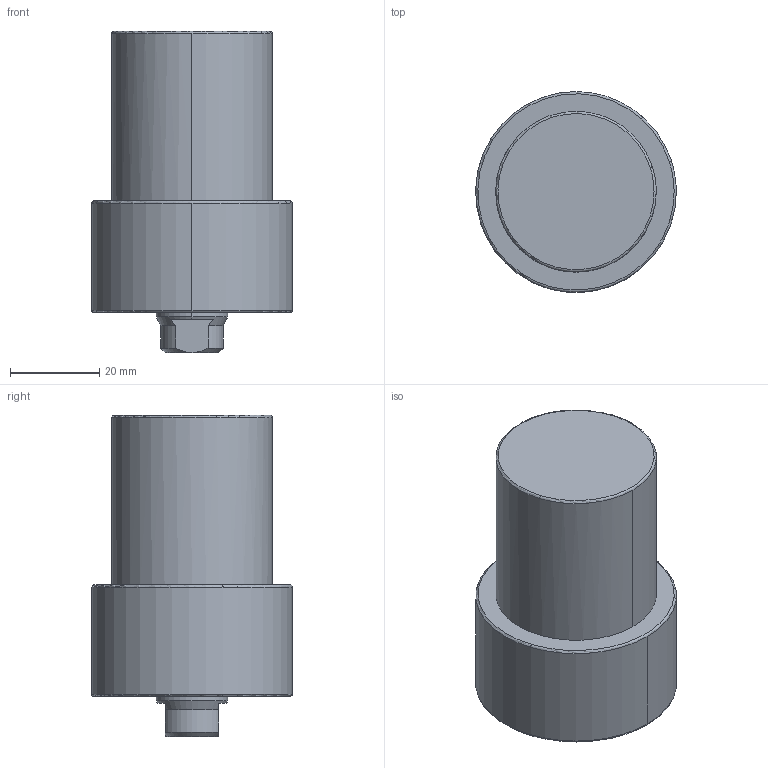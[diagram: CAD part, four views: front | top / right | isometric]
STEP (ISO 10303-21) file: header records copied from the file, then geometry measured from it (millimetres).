
FILE_DESCRIPTION((' '),'2;1');
FILE_NAME( 'TLLU-036GA-030.STEP.stp', '2025-10-24T16:37:03', (' '), ('--- Datakit www.datakit.com---'), ' Datakit CrossCadWare V2024.1 Dec 21 2023', 'Mastercam 2025', ' ');
FILE_SCHEMA(('AUTOMOTIVE_DESIGN { 1 0 10303 214 1 1 1 1 }'));
Length unit declared in the file: millimetre
Products named in the file (1): TLLU-036GA-030
Bounding box: 44.99 x 45 x 72 mm (x, y, z)
Volume: 78846 mm3; surface area: 12129.5 mm2
Topology: 1 solids, 1 shells, 62 faces, 172 edges, 111 vertices
Faces by surface type: cone 24, cylinder 22, plane 10, torus 6
Entity records: 2034 total; most frequent: DIRECTION 386, CARTESIAN_POINT 380, ORIENTED_EDGE 324, AXIS2_PLACEMENT_3D 169, EDGE_CURVE 162, VERTEX_POINT 111, CIRCLE 106, EDGE_LOOP 71
